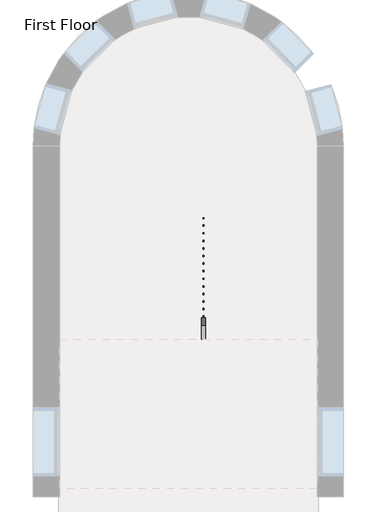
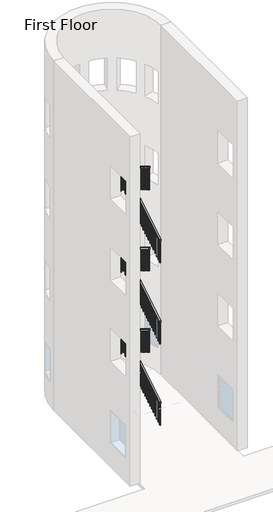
# One storey, part 7 of 8: 1 railing.
"""IFC4 building model written with IfcOpenShell, lengths in millimetres."""

import ifcopenshell
import ifcopenshell.guid

model = None  # the IFC model being written
_history = None  # IfcOwnerHistory: only IFC2X3 demands one
_inside = {}  # id of a spatial element -> (the spatial element, [elements in it])
_under = {}  # id of a project, library or spatial element -> (it, [spatial elements below it])
_declared = {}  # id of a project -> (the project, [libraries it declares])
_typed = {}  # id of a type object -> (the type object, [elements of that type])
_made_of = {}  # id of a material, layer set ... -> (it, [elements and type objects made of it])


def new_model(schema):
    """Start an empty IFC model of exactly this schema.

    Asked for "IFC4X3", IfcOpenShell would pick the latest addendum, in which some entities
    have other attributes; the version numbers below select the first issue.
    IFC2X3 requires an IfcOwnerHistory on every rooted entity: one is made here for all.
    """
    global model, _history
    if schema == "IFC4X3":
        model = ifcopenshell.file(schema_version=(4, 3, 0, 0))
    else:
        model = ifcopenshell.file(schema=schema)
    _inside.clear()
    _under.clear()
    _declared.clear()
    _typed.clear()
    _made_of.clear()
    _history = None
    if model.schema == "IFC2X3":
        org = make("IfcOrganization", Name="unknown")
        user = make(
            "IfcPersonAndOrganization",
            ThePerson=make("IfcPerson", FamilyName="unknown"),
            TheOrganization=org,
        )
        app = make(
            "IfcApplication",
            ApplicationDeveloper=org,
            Version="unknown",
            ApplicationFullName="unknown",
            ApplicationIdentifier="unknown",
        )
        _history = make(
            "IfcOwnerHistory",
            OwningUser=user,
            OwningApplication=app,
            ChangeAction="ADDED",
            CreationDate=0,
        )
    return model


def make(cls, **values):
    """One entity of the class cls with the attributes given. An attribute that is None is left unset."""
    return model.create_entity(
        cls, **{name: value for name, value in values.items() if value is not None}
    )


def rooted(cls, **values):
    """An entity with a GlobalId (a new one), such as an element, a storey or a relation."""
    return make(cls, GlobalId=ifcopenshell.guid.new(), OwnerHistory=_history, **values)


def si_unit(unit_type, name, prefix=None):
    """IfcSIUnit, for example si_unit("LENGTHUNIT", "METRE", prefix="MILLI")."""
    return make("IfcSIUnit", UnitType=unit_type, Prefix=prefix, Name=name)


def assignment(units):
    """IfcUnitAssignment: the units of a project."""
    return None if units is None else make("IfcUnitAssignment", Units=units)


def point(xyz):
    """IfcCartesianPoint."""
    return None if xyz is None else make("IfcCartesianPoint", Coordinates=xyz)


def direction(xyz):
    """IfcDirection."""
    return None if xyz is None else make("IfcDirection", DirectionRatios=xyz)


def frame(location, z_axis=None, x_axis=None):
    """IfcAxis2Placement3D, a coordinate frame: its origin and axes. An axis left out is left unset."""
    return make(
        "IfcAxis2Placement3D",
        Location=point(location),
        Axis=direction(z_axis),
        RefDirection=direction(x_axis),
    )


def origin():
    """The frame at (0, 0, 0) with its axes left unset."""
    return frame((0.0, 0.0, 0.0))


def place(relative_to, where):
    """IfcLocalPlacement: puts the frame where relative to a parent placement (None: the world)."""
    return make(
        "IfcLocalPlacement", PlacementRelTo=relative_to, RelativePlacement=where
    )


def context(
    kind, dimensions, precision=None, world=None, true_north=None, identifier=None
):
    """IfcGeometricRepresentationContext, for example the 3D "Model" context."""
    return make(
        "IfcGeometricRepresentationContext",
        ContextIdentifier=identifier,
        ContextType=kind,
        CoordinateSpaceDimension=dimensions,
        Precision=precision,
        WorldCoordinateSystem=world,
        TrueNorth=true_north,
    )


def project(units=None, contexts=None):
    """IfcProject with its units and contexts."""
    return rooted(
        "IfcProject",
        Name="project",
        RepresentationContexts=contexts,
        UnitsInContext=assignment(units),
    )


def spatial(cls, under=None, at=None, **own):
    """A site, building, storey or space (cls), placed at a placement, below another one or the project."""
    s = rooted(cls, ObjectPlacement=at, **own)
    if under is not None:
        _under.setdefault(under.id(), (under, []))[1].append(s)
    return s


def polyline(points):
    """IfcPolyline through the points."""
    return make("IfcPolyline", Points=[point(p) for p in points])


def outline(outer, holes=None, kind="AREA"):
    """IfcArbitraryClosedProfileDef: a profile drawn as a closed curve; with holes, ...WithVoids."""
    if holes is None:
        return make("IfcArbitraryClosedProfileDef", ProfileType=kind, OuterCurve=outer)
    return make(
        "IfcArbitraryProfileDefWithVoids",
        ProfileType=kind,
        OuterCurve=outer,
        InnerCurves=holes,
    )


def extrude(swept, where, along, depth):
    """IfcExtrudedAreaSolid: the profile swept, set in the frame where, extruded along a direction by depth."""
    return make(
        "IfcExtrudedAreaSolid",
        SweptArea=swept,
        Position=where,
        ExtrudedDirection=direction(along),
        Depth=depth,
    )


def shape(context_of_items, identifier, shape_type, items):
    """IfcShapeRepresentation: the items that make up one representation, for example the "Body"."""
    return make(
        "IfcShapeRepresentation",
        ContextOfItems=context_of_items,
        RepresentationIdentifier=identifier,
        RepresentationType=shape_type,
        Items=items,
    )


def made_of(thing, what):
    """Note that an element or type object is made of a material, layer set ...; save() writes the relation."""
    if what is not None:
        _made_of.setdefault(what.id(), (what, []))[1].append(thing)
    return thing


def element(
    cls,
    number,
    at=None,
    inside=None,
    cuts=None,
    type_object=None,
    material=None,
    context=None,
    identifier="Body",
    shape_type=None,
    held_by="IfcProductDefinitionShape",
    body=None,
    shapes=None,
    **own,
):
    """One element of the class cls, such as IfcWall. Its Tag is "e" and its number.

    at: its placement. inside: the storey or other place that contains it. cuts: it is an
    opening in that element (IfcRelVoidsElement). A single representation is given by context,
    identifier, shape_type and body (its items); several are given by shapes. held_by: the class
    of the entity that holds the representations. save() writes the other relations.
    """
    e = rooted(cls, Tag="e%d" % number, ObjectPlacement=at, **own)
    if body is not None:
        shapes = [shape(context, identifier, shape_type, body)]
    if shapes is not None:
        e.Representation = make(held_by, Representations=shapes)
    if inside is not None:
        _inside.setdefault(inside.id(), (inside, []))[1].append(e)
    if cuts is not None:
        rooted(
            "IfcRelVoidsElement", RelatingBuildingElement=cuts, RelatedOpeningElement=e
        )
    if type_object is not None:
        _typed.setdefault(type_object.id(), (type_object, []))[1].append(e)
    return made_of(e, material)


def aggregate(whole, parts):
    """IfcRelAggregates: a whole, such as a stair, and the parts it consists of."""
    return rooted("IfcRelAggregates", RelatingObject=whole, RelatedObjects=parts)


def save(model, path):
    """Write the relations noted so far, then the file.

    IfcRelAggregates (storeys below a building ...), IfcRelContainedInSpatialStructure (elements
    in a storey), IfcRelDefinesByType, IfcRelAssociatesMaterial and IfcRelDeclares: one each for
    every whole, place, type object, material and project.
    """
    for whole, parts in _under.values():
        aggregate(whole, parts)
    for where, things in _inside.values():
        rooted(
            "IfcRelContainedInSpatialStructure",
            RelatedElements=things,
            RelatingStructure=where,
        )
    for kind, things in _typed.values():
        rooted("IfcRelDefinesByType", RelatedObjects=things, RelatingType=kind)
    for what, things in _made_of.values():
        rooted("IfcRelAssociatesMaterial", RelatedObjects=things, RelatingMaterial=what)
    for by, libraries in _declared.values():
        rooted("IfcRelDeclares", RelatingContext=by, RelatedDefinitions=libraries)
    model.write(path)


model = new_model("IFC4")

# Units and contexts
model_context = context("Model", 3, world=origin())
ifc_project = project(units=[si_unit("LENGTHUNIT", "METRE", prefix="MILLI")], contexts=[model_context])

# Site, building, storey
site = spatial("IfcSite", under=ifc_project)
building = spatial("IfcBuilding", under=site)
storey = spatial("IfcBuildingStorey", under=building, Name="First Floor", Elevation=0.0)

# Railing
placement = place(None, origin())
element("IfcRailing", 1, ObjectType="Handrail - Rectangular", at=placement, inside=storey, context=model_context, shape_type="SweptSolid", body=[
    extrude(outline(polyline([(6636.2316867, 7120.3318731), (6636.2316867, 7179.7333333), (8820.6316867, 8503.6121212), (8820.6316867, 8444.2106609), (6636.2316867, 7120.3318731)])), frame((-14884.3714563, 0.0, 0.0), z_axis=(1.0, 0.0, 0.0), x_axis=(0.0, 1.0, 0.0)), (0.0, 0.0, 1.0), 50.8),
    extrude(outline(polyline([(-14833.5714563, 8871.4316867), (-14833.5714563, 8820.6316867), (-15225.6839563, 8820.6316867), (-15225.6839563, 8871.4316867), (-14833.5714563, 8871.4316867)])), frame((0.0, 0.0, 8483.6), z_axis=(0.0, 0.0, 1.0), x_axis=(1.0, 0.0, 0.0)), (0.0, 0.0, 1.0), 50.8),
    extrude(outline(polyline([(8871.4316867, 8703.7333333), (8871.4316867, 8644.3318731), (6636.2316867, 9998.9985397), (6636.2316867, 10058.4), (8871.4316867, 8703.7333333)])), frame((-15276.4839563, 0.0, 0.0), z_axis=(1.0, 0.0, 0.0), x_axis=(0.0, 1.0, 0.0)), (0.0, 0.0, 1.0), 50.8),
    extrude(outline(polyline([(6721.9566867, 9947.0439943), (6721.9566867, 9134.8266332), (6702.9066867, 9146.3720877), (6702.9066867, 9958.5894488), (6721.9566867, 9947.0439943)])), frame((-15260.6089563, 0.0, 0.0), z_axis=(1.0, 0.0, 0.0), x_axis=(0.0, 1.0, 0.0)), (0.0, 0.0, 1.0), 19.05),
    extrude(outline(polyline([(6823.5566867, 9885.4682367), (6823.5566867, 9073.2508756), (6804.5066867, 9084.7963301), (6804.5066867, 9897.0136912), (6823.5566867, 9885.4682367)])), frame((-15260.6089563, 0.0, 0.0), z_axis=(1.0, 0.0, 0.0), x_axis=(0.0, 1.0, 0.0)), (0.0, 0.0, 1.0), 19.05),
    extrude(outline(polyline([(6925.1566867, 9823.8924791), (6925.1566867, 9011.675118), (6906.1066867, 9023.2205726), (6906.1066867, 9835.4379337), (6925.1566867, 9823.8924791)])), frame((-15260.6089563, 0.0, 0.0), z_axis=(1.0, 0.0, 0.0), x_axis=(0.0, 1.0, 0.0)), (0.0, 0.0, 1.0), 19.05),
    extrude(outline(polyline([(7026.7566867, 9762.3167215), (7026.7566867, 8950.0993604), (7007.7066867, 8961.644815), (7007.7066867, 9773.8621761), (7026.7566867, 9762.3167215)])), frame((-15260.6089563, 0.0, 0.0), z_axis=(1.0, 0.0, 0.0), x_axis=(0.0, 1.0, 0.0)), (0.0, 0.0, 1.0), 19.05),
    extrude(outline(polyline([(7128.3566867, 9700.740964), (7128.3566867, 8888.5236029), (7109.3066867, 8900.0690574), (7109.3066867, 9712.2864185), (7128.3566867, 9700.740964)])), frame((-15260.6089563, 0.0, 0.0), z_axis=(1.0, 0.0, 0.0), x_axis=(0.0, 1.0, 0.0)), (0.0, 0.0, 1.0), 19.05),
    extrude(outline(polyline([(7229.9566867, 9639.1652064), (7229.9566867, 8826.9478453), (7210.9066867, 8838.4932998), (7210.9066867, 9650.7106609), (7229.9566867, 9639.1652064)])), frame((-15260.6089563, 0.0, 0.0), z_axis=(1.0, 0.0, 0.0), x_axis=(0.0, 1.0, 0.0)), (0.0, 0.0, 1.0), 19.05),
    extrude(outline(polyline([(7331.5566867, 9577.5894488), (7331.5566867, 8765.3720877), (7312.5066867, 8776.9175422), (7312.5066867, 9589.1349034), (7331.5566867, 9577.5894488)])), frame((-15260.6089563, 0.0, 0.0), z_axis=(1.0, 0.0, 0.0), x_axis=(0.0, 1.0, 0.0)), (0.0, 0.0, 1.0), 19.05),
    extrude(outline(polyline([(7433.1566867, 9516.0136912), (7433.1566867, 8703.7963301), (7414.1066867, 8715.3417847), (7414.1066867, 9527.5591458), (7433.1566867, 9516.0136912)])), frame((-15260.6089563, 0.0, 0.0), z_axis=(1.0, 0.0, 0.0), x_axis=(0.0, 1.0, 0.0)), (0.0, 0.0, 1.0), 19.05),
    extrude(outline(polyline([(7534.7566867, 9454.4379337), (7534.7566867, 8642.2205726), (7515.7066867, 8653.7660271), (7515.7066867, 9465.9833882), (7534.7566867, 9454.4379337)])), frame((-15260.6089563, 0.0, 0.0), z_axis=(1.0, 0.0, 0.0), x_axis=(0.0, 1.0, 0.0)), (0.0, 0.0, 1.0), 19.05),
    extrude(outline(polyline([(7636.3566867, 9392.8621761), (7636.3566867, 8580.644815), (7617.3066867, 8592.1902695), (7617.3066867, 9404.4076306), (7636.3566867, 9392.8621761)])), frame((-15260.6089563, 0.0, 0.0), z_axis=(1.0, 0.0, 0.0), x_axis=(0.0, 1.0, 0.0)), (0.0, 0.0, 1.0), 19.05),
    extrude(outline(polyline([(7737.9566867, 9331.2864185), (7737.9566867, 8519.0690574), (7718.9066867, 8530.6145119), (7718.9066867, 9342.8318731), (7737.9566867, 9331.2864185)])), frame((-15260.6089563, 0.0, 0.0), z_axis=(1.0, 0.0, 0.0), x_axis=(0.0, 1.0, 0.0)), (0.0, 0.0, 1.0), 19.05),
    extrude(outline(polyline([(7839.5566867, 9269.7106609), (7839.5566867, 8457.4932998), (7820.5066867, 8469.0387544), (7820.5066867, 9281.2561155), (7839.5566867, 9269.7106609)])), frame((-15260.6089563, 0.0, 0.0), z_axis=(1.0, 0.0, 0.0), x_axis=(0.0, 1.0, 0.0)), (0.0, 0.0, 1.0), 19.05),
    extrude(outline(polyline([(7941.1566867, 9208.1349034), (7941.1566867, 8395.9175422), (7922.1066867, 8407.4629968), (7922.1066867, 9219.6803579), (7941.1566867, 9208.1349034)])), frame((-15260.6089563, 0.0, 0.0), z_axis=(1.0, 0.0, 0.0), x_axis=(0.0, 1.0, 0.0)), (0.0, 0.0, 1.0), 19.05),
    extrude(outline(polyline([(8042.7566867, 9146.5591458), (8042.7566867, 8334.3417847), (8023.7066867, 8345.8872392), (8023.7066867, 9158.1046003), (8042.7566867, 9146.5591458)])), frame((-15260.6089563, 0.0, 0.0), z_axis=(1.0, 0.0, 0.0), x_axis=(0.0, 1.0, 0.0)), (0.0, 0.0, 1.0), 19.05),
    extrude(outline(polyline([(8144.3566867, 9084.9833882), (8144.3566867, 8272.7660271), (8125.3066867, 8284.3114816), (8125.3066867, 9096.5288428), (8144.3566867, 9084.9833882)])), frame((-15260.6089563, 0.0, 0.0), z_axis=(1.0, 0.0, 0.0), x_axis=(0.0, 1.0, 0.0)), (0.0, 0.0, 1.0), 19.05),
    extrude(outline(polyline([(8245.9566867, 9023.4076306), (8245.9566867, 8211.1902695), (8226.9066867, 8222.7357241), (8226.9066867, 9034.9530852), (8245.9566867, 9023.4076306)])), frame((-15260.6089563, 0.0, 0.0), z_axis=(1.0, 0.0, 0.0), x_axis=(0.0, 1.0, 0.0)), (0.0, 0.0, 1.0), 19.05),
    extrude(outline(polyline([(8347.5566867, 8961.8318731), (8347.5566867, 8149.6145119), (8328.5066867, 8161.1599665), (8328.5066867, 8973.3773276), (8347.5566867, 8961.8318731)])), frame((-15260.6089563, 0.0, 0.0), z_axis=(1.0, 0.0, 0.0), x_axis=(0.0, 1.0, 0.0)), (0.0, 0.0, 1.0), 19.05),
    extrude(outline(polyline([(8449.1566867, 8900.2561155), (8449.1566867, 8088.0387544), (8430.1066867, 8099.5842089), (8430.1066867, 8911.80157), (8449.1566867, 8900.2561155)])), frame((-15260.6089563, 0.0, 0.0), z_axis=(1.0, 0.0, 0.0), x_axis=(0.0, 1.0, 0.0)), (0.0, 0.0, 1.0), 19.05),
    extrude(outline(polyline([(8550.7566867, 8838.6803579), (8550.7566867, 8026.4629968), (8531.7066867, 8038.0084513), (8531.7066867, 8850.2258125), (8550.7566867, 8838.6803579)])), frame((-15260.6089563, 0.0, 0.0), z_axis=(1.0, 0.0, 0.0), x_axis=(0.0, 1.0, 0.0)), (0.0, 0.0, 1.0), 19.05),
    extrude(outline(polyline([(8652.3566867, 8777.1046003), (8652.3566867, 7964.8872392), (8633.3066867, 7976.4326938), (8633.3066867, 8788.6500549), (8652.3566867, 8777.1046003)])), frame((-15260.6089563, 0.0, 0.0), z_axis=(1.0, 0.0, 0.0), x_axis=(0.0, 1.0, 0.0)), (0.0, 0.0, 1.0), 19.05),
    extrude(outline(polyline([(8753.9566867, 8715.5288428), (8753.9566867, 7903.3114816), (8734.9066867, 7914.8569362), (8734.9066867, 8727.0742973), (8753.9566867, 8715.5288428)])), frame((-15260.6089563, 0.0, 0.0), z_axis=(1.0, 0.0, 0.0), x_axis=(0.0, 1.0, 0.0)), (0.0, 0.0, 1.0), 19.05),
    extrude(outline(polyline([(-15154.2464563, 8836.5066867), (-15173.2964563, 8836.5066867), (-15173.2964563, 8855.5566867), (-15154.2464563, 8855.5566867), (-15154.2464563, 8836.5066867)])), frame((0.0, 0.0, 7696.2), z_axis=(0.0, 0.0, 1.0), x_axis=(1.0, 0.0, 0.0)), (0.0, 0.0, 1.0), 787.4),
    extrude(outline(polyline([(-15052.6464563, 8836.5066867), (-15071.6964563, 8836.5066867), (-15071.6964563, 8855.5566867), (-15052.6464563, 8855.5566867), (-15052.6464563, 8836.5066867)])), frame((0.0, 0.0, 7696.2), z_axis=(0.0, 0.0, 1.0), x_axis=(1.0, 0.0, 0.0)), (0.0, 0.0, 1.0), 787.4),
    extrude(outline(polyline([(-14951.0464563, 8836.5066867), (-14970.0964563, 8836.5066867), (-14970.0964563, 8855.5566867), (-14951.0464563, 8855.5566867), (-14951.0464563, 8836.5066867)])), frame((0.0, 0.0, 7696.2), z_axis=(0.0, 0.0, 1.0), x_axis=(1.0, 0.0, 0.0)), (0.0, 0.0, 1.0), 787.4),
    extrude(outline(polyline([(8779.3566867, 8419.1955094), (8779.3566867, 7606.9781483), (8760.3066867, 7595.4326938), (8760.3066867, 8407.6500549), (8779.3566867, 8419.1955094)])), frame((-14868.4964563, 0.0, 0.0), z_axis=(1.0, 0.0, 0.0), x_axis=(0.0, 1.0, 0.0)), (0.0, 0.0, 1.0), 19.05),
    extrude(outline(polyline([(8677.7566867, 8357.6197519), (8677.7566867, 7545.4023907), (8658.7066867, 7533.8569362), (8658.7066867, 8346.0742973), (8677.7566867, 8357.6197519)])), frame((-14868.4964563, 0.0, 0.0), z_axis=(1.0, 0.0, 0.0), x_axis=(0.0, 1.0, 0.0)), (0.0, 0.0, 1.0), 19.05),
    extrude(outline(polyline([(8576.1566867, 8296.0439943), (8576.1566867, 7483.8266332), (8557.1066867, 7472.2811786), (8557.1066867, 8284.4985397), (8576.1566867, 8296.0439943)])), frame((-14868.4964563, 0.0, 0.0), z_axis=(1.0, 0.0, 0.0), x_axis=(0.0, 1.0, 0.0)), (0.0, 0.0, 1.0), 19.05),
    extrude(outline(polyline([(8474.5566867, 8234.4682367), (8474.5566867, 7422.2508756), (8455.5066867, 7410.705421), (8455.5066867, 8222.9227822), (8474.5566867, 8234.4682367)])), frame((-14868.4964563, 0.0, 0.0), z_axis=(1.0, 0.0, 0.0), x_axis=(0.0, 1.0, 0.0)), (0.0, 0.0, 1.0), 19.05),
    extrude(outline(polyline([(8372.9566867, 8172.8924791), (8372.9566867, 7360.675118), (8353.9066867, 7349.1296635), (8353.9066867, 8161.3470246), (8372.9566867, 8172.8924791)])), frame((-14868.4964563, 0.0, 0.0), z_axis=(1.0, 0.0, 0.0), x_axis=(0.0, 1.0, 0.0)), (0.0, 0.0, 1.0), 19.05),
    extrude(outline(polyline([(8271.3566867, 8111.3167215), (8271.3566867, 7299.0993604), (8252.3066867, 7287.5539059), (8252.3066867, 8099.771267), (8271.3566867, 8111.3167215)])), frame((-14868.4964563, 0.0, 0.0), z_axis=(1.0, 0.0, 0.0), x_axis=(0.0, 1.0, 0.0)), (0.0, 0.0, 1.0), 19.05),
    extrude(outline(polyline([(8169.7566867, 8049.740964), (8169.7566867, 7237.5236029), (8150.7066867, 7225.9781483), (8150.7066867, 8038.1955094), (8169.7566867, 8049.740964)])), frame((-14868.4964563, 0.0, 0.0), z_axis=(1.0, 0.0, 0.0), x_axis=(0.0, 1.0, 0.0)), (0.0, 0.0, 1.0), 19.05),
    extrude(outline(polyline([(8068.1566867, 7988.1652064), (8068.1566867, 7175.9478453), (8049.1066867, 7164.4023907), (8049.1066867, 7976.6197519), (8068.1566867, 7988.1652064)])), frame((-14868.4964563, 0.0, 0.0), z_axis=(1.0, 0.0, 0.0), x_axis=(0.0, 1.0, 0.0)), (0.0, 0.0, 1.0), 19.05),
    extrude(outline(polyline([(7966.5566867, 7926.5894488), (7966.5566867, 7114.3720877), (7947.5066867, 7102.8266332), (7947.5066867, 7915.0439943), (7966.5566867, 7926.5894488)])), frame((-14868.4964563, 0.0, 0.0), z_axis=(1.0, 0.0, 0.0), x_axis=(0.0, 1.0, 0.0)), (0.0, 0.0, 1.0), 19.05),
    extrude(outline(polyline([(7864.9566867, 7865.0136912), (7864.9566867, 7052.7963301), (7845.9066867, 7041.2508756), (7845.9066867, 7853.4682367), (7864.9566867, 7865.0136912)])), frame((-14868.4964563, 0.0, 0.0), z_axis=(1.0, 0.0, 0.0), x_axis=(0.0, 1.0, 0.0)), (0.0, 0.0, 1.0), 19.05),
    extrude(outline(polyline([(7763.3566867, 7803.4379337), (7763.3566867, 6991.2205726), (7744.3066867, 6979.675118), (7744.3066867, 7791.8924791), (7763.3566867, 7803.4379337)])), frame((-14868.4964563, 0.0, 0.0), z_axis=(1.0, 0.0, 0.0), x_axis=(0.0, 1.0, 0.0)), (0.0, 0.0, 1.0), 19.05),
    extrude(outline(polyline([(7661.7566867, 7741.8621761), (7661.7566867, 6929.644815), (7642.7066867, 6918.0993604), (7642.7066867, 7730.3167215), (7661.7566867, 7741.8621761)])), frame((-14868.4964563, 0.0, 0.0), z_axis=(1.0, 0.0, 0.0), x_axis=(0.0, 1.0, 0.0)), (0.0, 0.0, 1.0), 19.05),
    extrude(outline(polyline([(7560.1566867, 7680.2864185), (7560.1566867, 6868.0690574), (7541.1066867, 6856.5236029), (7541.1066867, 7668.740964), (7560.1566867, 7680.2864185)])), frame((-14868.4964563, 0.0, 0.0), z_axis=(1.0, 0.0, 0.0), x_axis=(0.0, 1.0, 0.0)), (0.0, 0.0, 1.0), 19.05),
    extrude(outline(polyline([(7458.5566867, 7618.7106609), (7458.5566867, 6806.4932998), (7439.5066867, 6794.9478453), (7439.5066867, 7607.1652064), (7458.5566867, 7618.7106609)])), frame((-14868.4964563, 0.0, 0.0), z_axis=(1.0, 0.0, 0.0), x_axis=(0.0, 1.0, 0.0)), (0.0, 0.0, 1.0), 19.05),
    extrude(outline(polyline([(7356.9566867, 7557.1349034), (7356.9566867, 6744.9175422), (7337.9066867, 6733.3720877), (7337.9066867, 7545.5894488), (7356.9566867, 7557.1349034)])), frame((-14868.4964563, 0.0, 0.0), z_axis=(1.0, 0.0, 0.0), x_axis=(0.0, 1.0, 0.0)), (0.0, 0.0, 1.0), 19.05),
    extrude(outline(polyline([(7255.3566867, 7495.5591458), (7255.3566867, 6683.3417847), (7236.3066867, 6671.7963301), (7236.3066867, 7484.0136912), (7255.3566867, 7495.5591458)])), frame((-14868.4964563, 0.0, 0.0), z_axis=(1.0, 0.0, 0.0), x_axis=(0.0, 1.0, 0.0)), (0.0, 0.0, 1.0), 19.05),
    extrude(outline(polyline([(7153.7566867, 7433.9833882), (7153.7566867, 6621.7660271), (7134.7066867, 6610.2205726), (7134.7066867, 7422.4379337), (7153.7566867, 7433.9833882)])), frame((-14868.4964563, 0.0, 0.0), z_axis=(1.0, 0.0, 0.0), x_axis=(0.0, 1.0, 0.0)), (0.0, 0.0, 1.0), 19.05),
    extrude(outline(polyline([(7052.1566867, 7372.4076306), (7052.1566867, 6560.1902695), (7033.1066867, 6548.644815), (7033.1066867, 7360.8621761), (7052.1566867, 7372.4076306)])), frame((-14868.4964563, 0.0, 0.0), z_axis=(1.0, 0.0, 0.0), x_axis=(0.0, 1.0, 0.0)), (0.0, 0.0, 1.0), 19.05),
    extrude(outline(polyline([(6950.5566867, 7310.8318731), (6950.5566867, 6498.6145119), (6931.5066867, 6487.0690574), (6931.5066867, 7299.2864185), (6950.5566867, 7310.8318731)])), frame((-14868.4964563, 0.0, 0.0), z_axis=(1.0, 0.0, 0.0), x_axis=(0.0, 1.0, 0.0)), (0.0, 0.0, 1.0), 19.05),
    extrude(outline(polyline([(6848.9566867, 7249.2561155), (6848.9566867, 6437.0387544), (6829.9066867, 6425.4932998), (6829.9066867, 7237.7106609), (6848.9566867, 7249.2561155)])), frame((-14868.4964563, 0.0, 0.0), z_axis=(1.0, 0.0, 0.0), x_axis=(0.0, 1.0, 0.0)), (0.0, 0.0, 1.0), 19.05),
    extrude(outline(polyline([(6747.3566867, 7187.6803579), (6747.3566867, 6375.4629968), (6728.3066867, 6363.9175422), (6728.3066867, 7176.1349034), (6747.3566867, 7187.6803579)])), frame((-14868.4964563, 0.0, 0.0), z_axis=(1.0, 0.0, 0.0), x_axis=(0.0, 1.0, 0.0)), (0.0, 0.0, 1.0), 19.05),
    extrude(outline(polyline([(8855.5566867, 8653.9530852), (8855.5566867, 7841.7357241), (8836.5066867, 7853.2811786), (8836.5066867, 8665.4985397), (8855.5566867, 8653.9530852)])), frame((-15260.6089563, 0.0, 0.0), z_axis=(1.0, 0.0, 0.0), x_axis=(0.0, 1.0, 0.0)), (0.0, 0.0, 1.0), 19.05),
    extrude(outline(polyline([(-14849.4464563, 8836.5066867), (-14868.4964563, 8836.5066867), (-14868.4964563, 8855.5566867), (-14849.4464563, 8855.5566867), (-14849.4464563, 8836.5066867)])), frame((0.0, 0.0, 7696.2), z_axis=(0.0, 0.0, 1.0), x_axis=(1.0, 0.0, 0.0)), (0.0, 0.0, 1.0), 787.4),
    extrude(outline(polyline([(6655.2816867, 9987.4530852), (6655.2816867, 9175.2357241), (6636.2316867, 9186.7811786), (6636.2316867, 9998.9985397), (6655.2816867, 9987.4530852)])), frame((-15260.6089563, 0.0, 0.0), z_axis=(1.0, 0.0, 0.0), x_axis=(0.0, 1.0, 0.0)), (0.0, 0.0, 1.0), 19.05),
    extrude(outline(polyline([(6655.2816867, 7131.8773276), (6655.2816867, 6319.6599665), (6636.2316867, 6308.1145119), (6636.2316867, 7120.3318731), (6655.2816867, 7131.8773276)])), frame((-14868.4964563, 0.0, 0.0), z_axis=(1.0, 0.0, 0.0), x_axis=(0.0, 1.0, 0.0)), (0.0, 0.0, 1.0), 19.05),
    extrude(outline(polyline([(6636.2316867, 4072.3318731), (6636.2316867, 4131.7333333), (8820.6316867, 5455.6121212), (8820.6316867, 5396.210661), (6636.2316867, 4072.3318731)])), frame((-14884.3714563, 0.0, 0.0), z_axis=(1.0, 0.0, 0.0), x_axis=(0.0, 1.0, 0.0)), (0.0, 0.0, 1.0), 50.8),
    extrude(outline(polyline([(-14833.5714563, 8871.4316867), (-14833.5714563, 8820.6316867), (-15225.6839563, 8820.6316867), (-15225.6839563, 8871.4316867), (-14833.5714563, 8871.4316867)])), frame((0.0, 0.0, 5435.6), z_axis=(0.0, 0.0, 1.0), x_axis=(1.0, 0.0, 0.0)), (0.0, 0.0, 1.0), 50.8),
    extrude(outline(polyline([(8871.4316867, 5655.7333333), (8871.4316867, 5596.3318731), (6636.2316867, 6950.9985397), (6636.2316867, 7010.4), (8871.4316867, 5655.7333333)])), frame((-15276.4839563, 0.0, 0.0), z_axis=(1.0, 0.0, 0.0), x_axis=(0.0, 1.0, 0.0)), (0.0, 0.0, 1.0), 50.8),
    extrude(outline(polyline([(6721.9566867, 6899.0439943), (6721.9566867, 6086.8266332), (6702.9066867, 6098.3720877), (6702.9066867, 6910.5894488), (6721.9566867, 6899.0439943)])), frame((-15260.6089563, 0.0, 0.0), z_axis=(1.0, 0.0, 0.0), x_axis=(0.0, 1.0, 0.0)), (0.0, 0.0, 1.0), 19.05),
    extrude(outline(polyline([(6823.5566867, 6837.4682367), (6823.5566867, 6025.2508756), (6804.5066867, 6036.7963301), (6804.5066867, 6849.0136913), (6823.5566867, 6837.4682367)])), frame((-15260.6089563, 0.0, 0.0), z_axis=(1.0, 0.0, 0.0), x_axis=(0.0, 1.0, 0.0)), (0.0, 0.0, 1.0), 19.05),
    extrude(outline(polyline([(6925.1566867, 6775.8924791), (6925.1566867, 5963.675118), (6906.1066867, 5975.2205726), (6906.1066867, 6787.4379337), (6925.1566867, 6775.8924791)])), frame((-15260.6089563, 0.0, 0.0), z_axis=(1.0, 0.0, 0.0), x_axis=(0.0, 1.0, 0.0)), (0.0, 0.0, 1.0), 19.05),
    extrude(outline(polyline([(7026.7566867, 6714.3167216), (7026.7566867, 5902.0993604), (7007.7066867, 5913.644815), (7007.7066867, 6725.8621761), (7026.7566867, 6714.3167216)])), frame((-15260.6089563, 0.0, 0.0), z_axis=(1.0, 0.0, 0.0), x_axis=(0.0, 1.0, 0.0)), (0.0, 0.0, 1.0), 19.05),
    extrude(outline(polyline([(7128.3566867, 6652.740964), (7128.3566867, 5840.5236029), (7109.3066867, 5852.0690574), (7109.3066867, 6664.2864185), (7128.3566867, 6652.740964)])), frame((-15260.6089563, 0.0, 0.0), z_axis=(1.0, 0.0, 0.0), x_axis=(0.0, 1.0, 0.0)), (0.0, 0.0, 1.0), 19.05),
    extrude(outline(polyline([(7229.9566867, 6591.1652064), (7229.9566867, 5778.9478453), (7210.9066867, 5790.4932998), (7210.9066867, 6602.7106609), (7229.9566867, 6591.1652064)])), frame((-15260.6089563, 0.0, 0.0), z_axis=(1.0, 0.0, 0.0), x_axis=(0.0, 1.0, 0.0)), (0.0, 0.0, 1.0), 19.05),
    extrude(outline(polyline([(7331.5566867, 6529.5894488), (7331.5566867, 5717.3720877), (7312.5066867, 5728.9175423), (7312.5066867, 6541.1349034), (7331.5566867, 6529.5894488)])), frame((-15260.6089563, 0.0, 0.0), z_axis=(1.0, 0.0, 0.0), x_axis=(0.0, 1.0, 0.0)), (0.0, 0.0, 1.0), 19.05),
    extrude(outline(polyline([(7433.1566867, 6468.0136913), (7433.1566867, 5655.7963301), (7414.1066867, 5667.3417847), (7414.1066867, 6479.5591458), (7433.1566867, 6468.0136913)])), frame((-15260.6089563, 0.0, 0.0), z_axis=(1.0, 0.0, 0.0), x_axis=(0.0, 1.0, 0.0)), (0.0, 0.0, 1.0), 19.05),
    extrude(outline(polyline([(7534.7566867, 6406.4379337), (7534.7566867, 5594.2205726), (7515.7066867, 5605.7660271), (7515.7066867, 6417.9833882), (7534.7566867, 6406.4379337)])), frame((-15260.6089563, 0.0, 0.0), z_axis=(1.0, 0.0, 0.0), x_axis=(0.0, 1.0, 0.0)), (0.0, 0.0, 1.0), 19.05),
    extrude(outline(polyline([(7636.3566867, 6344.8621761), (7636.3566867, 5532.644815), (7617.3066867, 5544.1902695), (7617.3066867, 6356.4076306), (7636.3566867, 6344.8621761)])), frame((-15260.6089563, 0.0, 0.0), z_axis=(1.0, 0.0, 0.0), x_axis=(0.0, 1.0, 0.0)), (0.0, 0.0, 1.0), 19.05),
    extrude(outline(polyline([(7737.9566867, 6283.2864185), (7737.9566867, 5471.0690574), (7718.9066867, 5482.614512), (7718.9066867, 6294.8318731), (7737.9566867, 6283.2864185)])), frame((-15260.6089563, 0.0, 0.0), z_axis=(1.0, 0.0, 0.0), x_axis=(0.0, 1.0, 0.0)), (0.0, 0.0, 1.0), 19.05),
    extrude(outline(polyline([(7839.5566867, 6221.7106609), (7839.5566867, 5409.4932998), (7820.5066867, 5421.0387544), (7820.5066867, 6233.2561155), (7839.5566867, 6221.7106609)])), frame((-15260.6089563, 0.0, 0.0), z_axis=(1.0, 0.0, 0.0), x_axis=(0.0, 1.0, 0.0)), (0.0, 0.0, 1.0), 19.05),
    extrude(outline(polyline([(7941.1566867, 6160.1349034), (7941.1566867, 5347.9175423), (7922.1066867, 5359.4629968), (7922.1066867, 6171.6803579), (7941.1566867, 6160.1349034)])), frame((-15260.6089563, 0.0, 0.0), z_axis=(1.0, 0.0, 0.0), x_axis=(0.0, 1.0, 0.0)), (0.0, 0.0, 1.0), 19.05),
    extrude(outline(polyline([(8042.7566867, 6098.5591458), (8042.7566867, 5286.3417847), (8023.7066867, 5297.8872392), (8023.7066867, 6110.1046003), (8042.7566867, 6098.5591458)])), frame((-15260.6089563, 0.0, 0.0), z_axis=(1.0, 0.0, 0.0), x_axis=(0.0, 1.0, 0.0)), (0.0, 0.0, 1.0), 19.05),
    extrude(outline(polyline([(8144.3566867, 6036.9833882), (8144.3566867, 5224.7660271), (8125.3066867, 5236.3114817), (8125.3066867, 6048.5288428), (8144.3566867, 6036.9833882)])), frame((-15260.6089563, 0.0, 0.0), z_axis=(1.0, 0.0, 0.0), x_axis=(0.0, 1.0, 0.0)), (0.0, 0.0, 1.0), 19.05),
    extrude(outline(polyline([(8245.9566867, 5975.4076306), (8245.9566867, 5163.1902695), (8226.9066867, 5174.7357241), (8226.9066867, 5986.9530852), (8245.9566867, 5975.4076306)])), frame((-15260.6089563, 0.0, 0.0), z_axis=(1.0, 0.0, 0.0), x_axis=(0.0, 1.0, 0.0)), (0.0, 0.0, 1.0), 19.05),
    extrude(outline(polyline([(8347.5566867, 5913.8318731), (8347.5566867, 5101.614512), (8328.5066867, 5113.1599665), (8328.5066867, 5925.3773276), (8347.5566867, 5913.8318731)])), frame((-15260.6089563, 0.0, 0.0), z_axis=(1.0, 0.0, 0.0), x_axis=(0.0, 1.0, 0.0)), (0.0, 0.0, 1.0), 19.05),
    extrude(outline(polyline([(8449.1566867, 5852.2561155), (8449.1566867, 5040.0387544), (8430.1066867, 5051.5842089), (8430.1066867, 5863.80157), (8449.1566867, 5852.2561155)])), frame((-15260.6089563, 0.0, 0.0), z_axis=(1.0, 0.0, 0.0), x_axis=(0.0, 1.0, 0.0)), (0.0, 0.0, 1.0), 19.05),
    extrude(outline(polyline([(8550.7566867, 5790.6803579), (8550.7566867, 4978.4629968), (8531.7066867, 4990.0084513), (8531.7066867, 5802.2258125), (8550.7566867, 5790.6803579)])), frame((-15260.6089563, 0.0, 0.0), z_axis=(1.0, 0.0, 0.0), x_axis=(0.0, 1.0, 0.0)), (0.0, 0.0, 1.0), 19.05),
    extrude(outline(polyline([(8652.3566867, 5729.1046003), (8652.3566867, 4916.8872392), (8633.3066867, 4928.4326938), (8633.3066867, 5740.6500549), (8652.3566867, 5729.1046003)])), frame((-15260.6089563, 0.0, 0.0), z_axis=(1.0, 0.0, 0.0), x_axis=(0.0, 1.0, 0.0)), (0.0, 0.0, 1.0), 19.05),
    extrude(outline(polyline([(8753.9566867, 5667.5288428), (8753.9566867, 4855.3114817), (8734.9066867, 4866.8569362), (8734.9066867, 5679.0742973), (8753.9566867, 5667.5288428)])), frame((-15260.6089563, 0.0, 0.0), z_axis=(1.0, 0.0, 0.0), x_axis=(0.0, 1.0, 0.0)), (0.0, 0.0, 1.0), 19.05),
    extrude(outline(polyline([(-15154.2464563, 8836.5066867), (-15173.2964563, 8836.5066867), (-15173.2964563, 8855.5566867), (-15154.2464563, 8855.5566867), (-15154.2464563, 8836.5066867)])), frame((0.0, 0.0, 4648.2), z_axis=(0.0, 0.0, 1.0), x_axis=(1.0, 0.0, 0.0)), (0.0, 0.0, 1.0), 787.4),
    extrude(outline(polyline([(-15052.6464563, 8836.5066867), (-15071.6964563, 8836.5066867), (-15071.6964563, 8855.5566867), (-15052.6464563, 8855.5566867), (-15052.6464563, 8836.5066867)])), frame((0.0, 0.0, 4648.2), z_axis=(0.0, 0.0, 1.0), x_axis=(1.0, 0.0, 0.0)), (0.0, 0.0, 1.0), 787.4),
    extrude(outline(polyline([(-14951.0464563, 8836.5066867), (-14970.0964563, 8836.5066867), (-14970.0964563, 8855.5566867), (-14951.0464563, 8855.5566867), (-14951.0464563, 8836.5066867)])), frame((0.0, 0.0, 4648.2), z_axis=(0.0, 0.0, 1.0), x_axis=(1.0, 0.0, 0.0)), (0.0, 0.0, 1.0), 787.4),
    extrude(outline(polyline([(8779.3566867, 5371.1955094), (8779.3566867, 4558.9781483), (8760.3066867, 4547.4326938), (8760.3066867, 5359.6500549), (8779.3566867, 5371.1955094)])), frame((-14868.4964563, 0.0, 0.0), z_axis=(1.0, 0.0, 0.0), x_axis=(0.0, 1.0, 0.0)), (0.0, 0.0, 1.0), 19.05),
    extrude(outline(polyline([(8677.7566867, 5309.6197519), (8677.7566867, 4497.4023907), (8658.7066867, 4485.8569362), (8658.7066867, 5298.0742973), (8677.7566867, 5309.6197519)])), frame((-14868.4964563, 0.0, 0.0), z_axis=(1.0, 0.0, 0.0), x_axis=(0.0, 1.0, 0.0)), (0.0, 0.0, 1.0), 19.05),
    extrude(outline(polyline([(8576.1566867, 5248.0439943), (8576.1566867, 4435.8266332), (8557.1066867, 4424.2811786), (8557.1066867, 5236.4985397), (8576.1566867, 5248.0439943)])), frame((-14868.4964563, 0.0, 0.0), z_axis=(1.0, 0.0, 0.0), x_axis=(0.0, 1.0, 0.0)), (0.0, 0.0, 1.0), 19.05),
    extrude(outline(polyline([(8474.5566867, 5186.4682367), (8474.5566867, 4374.2508756), (8455.5066867, 4362.705421), (8455.5066867, 5174.9227822), (8474.5566867, 5186.4682367)])), frame((-14868.4964563, 0.0, 0.0), z_axis=(1.0, 0.0, 0.0), x_axis=(0.0, 1.0, 0.0)), (0.0, 0.0, 1.0), 19.05),
    extrude(outline(polyline([(8372.9566867, 5124.8924791), (8372.9566867, 4312.675118), (8353.9066867, 4301.1296635), (8353.9066867, 5113.3470246), (8372.9566867, 5124.8924791)])), frame((-14868.4964563, 0.0, 0.0), z_axis=(1.0, 0.0, 0.0), x_axis=(0.0, 1.0, 0.0)), (0.0, 0.0, 1.0), 19.05),
    extrude(outline(polyline([(8271.3566867, 5063.3167216), (8271.3566867, 4251.0993604), (8252.3066867, 4239.5539059), (8252.3066867, 5051.771267), (8271.3566867, 5063.3167216)])), frame((-14868.4964563, 0.0, 0.0), z_axis=(1.0, 0.0, 0.0), x_axis=(0.0, 1.0, 0.0)), (0.0, 0.0, 1.0), 19.05),
    extrude(outline(polyline([(8169.7566867, 5001.740964), (8169.7566867, 4189.5236029), (8150.7066867, 4177.9781483), (8150.7066867, 4990.1955094), (8169.7566867, 5001.740964)])), frame((-14868.4964563, 0.0, 0.0), z_axis=(1.0, 0.0, 0.0), x_axis=(0.0, 1.0, 0.0)), (0.0, 0.0, 1.0), 19.05),
    extrude(outline(polyline([(8068.1566867, 4940.1652064), (8068.1566867, 4127.9478453), (8049.1066867, 4116.4023907), (8049.1066867, 4928.6197519), (8068.1566867, 4940.1652064)])), frame((-14868.4964563, 0.0, 0.0), z_axis=(1.0, 0.0, 0.0), x_axis=(0.0, 1.0, 0.0)), (0.0, 0.0, 1.0), 19.05),
    extrude(outline(polyline([(7966.5566867, 4878.5894488), (7966.5566867, 4066.3720877), (7947.5066867, 4054.8266332), (7947.5066867, 4867.0439943), (7966.5566867, 4878.5894488)])), frame((-14868.4964563, 0.0, 0.0), z_axis=(1.0, 0.0, 0.0), x_axis=(0.0, 1.0, 0.0)), (0.0, 0.0, 1.0), 19.05),
    extrude(outline(polyline([(7864.9566867, 4817.0136913), (7864.9566867, 4004.7963301), (7845.9066867, 3993.2508756), (7845.9066867, 4805.4682367), (7864.9566867, 4817.0136913)])), frame((-14868.4964563, 0.0, 0.0), z_axis=(1.0, 0.0, 0.0), x_axis=(0.0, 1.0, 0.0)), (0.0, 0.0, 1.0), 19.05),
    extrude(outline(polyline([(7763.3566867, 4755.4379337), (7763.3566867, 3943.2205726), (7744.3066867, 3931.675118), (7744.3066867, 4743.8924791), (7763.3566867, 4755.4379337)])), frame((-14868.4964563, 0.0, 0.0), z_axis=(1.0, 0.0, 0.0), x_axis=(0.0, 1.0, 0.0)), (0.0, 0.0, 1.0), 19.05),
    extrude(outline(polyline([(7661.7566867, 4693.8621761), (7661.7566867, 3881.644815), (7642.7066867, 3870.0993604), (7642.7066867, 4682.3167216), (7661.7566867, 4693.8621761)])), frame((-14868.4964563, 0.0, 0.0), z_axis=(1.0, 0.0, 0.0), x_axis=(0.0, 1.0, 0.0)), (0.0, 0.0, 1.0), 19.05),
    extrude(outline(polyline([(7560.1566867, 4632.2864185), (7560.1566867, 3820.0690574), (7541.1066867, 3808.5236029), (7541.1066867, 4620.740964), (7560.1566867, 4632.2864185)])), frame((-14868.4964563, 0.0, 0.0), z_axis=(1.0, 0.0, 0.0), x_axis=(0.0, 1.0, 0.0)), (0.0, 0.0, 1.0), 19.05),
    extrude(outline(polyline([(7458.5566867, 4570.710661), (7458.5566867, 3758.4932998), (7439.5066867, 3746.9478453), (7439.5066867, 4559.1652064), (7458.5566867, 4570.710661)])), frame((-14868.4964563, 0.0, 0.0), z_axis=(1.0, 0.0, 0.0), x_axis=(0.0, 1.0, 0.0)), (0.0, 0.0, 1.0), 19.05),
    extrude(outline(polyline([(7356.9566867, 4509.1349034), (7356.9566867, 3696.9175423), (7337.9066867, 3685.3720877), (7337.9066867, 4497.5894488), (7356.9566867, 4509.1349034)])), frame((-14868.4964563, 0.0, 0.0), z_axis=(1.0, 0.0, 0.0), x_axis=(0.0, 1.0, 0.0)), (0.0, 0.0, 1.0), 19.05),
    extrude(outline(polyline([(7255.3566867, 4447.5591458), (7255.3566867, 3635.3417847), (7236.3066867, 3623.7963301), (7236.3066867, 4436.0136913), (7255.3566867, 4447.5591458)])), frame((-14868.4964563, 0.0, 0.0), z_axis=(1.0, 0.0, 0.0), x_axis=(0.0, 1.0, 0.0)), (0.0, 0.0, 1.0), 19.05),
    extrude(outline(polyline([(7153.7566867, 4385.9833882), (7153.7566867, 3573.7660271), (7134.7066867, 3562.2205726), (7134.7066867, 4374.4379337), (7153.7566867, 4385.9833882)])), frame((-14868.4964563, 0.0, 0.0), z_axis=(1.0, 0.0, 0.0), x_axis=(0.0, 1.0, 0.0)), (0.0, 0.0, 1.0), 19.05),
    extrude(outline(polyline([(7052.1566867, 4324.4076306), (7052.1566867, 3512.1902695), (7033.1066867, 3500.644815), (7033.1066867, 4312.8621761), (7052.1566867, 4324.4076306)])), frame((-14868.4964563, 0.0, 0.0), z_axis=(1.0, 0.0, 0.0), x_axis=(0.0, 1.0, 0.0)), (0.0, 0.0, 1.0), 19.05),
    extrude(outline(polyline([(6950.5566867, 4262.8318731), (6950.5566867, 3450.614512), (6931.5066867, 3439.0690574), (6931.5066867, 4251.2864185), (6950.5566867, 4262.8318731)])), frame((-14868.4964563, 0.0, 0.0), z_axis=(1.0, 0.0, 0.0), x_axis=(0.0, 1.0, 0.0)), (0.0, 0.0, 1.0), 19.05),
    extrude(outline(polyline([(6848.9566867, 4201.2561155), (6848.9566867, 3389.0387544), (6829.9066867, 3377.4932998), (6829.9066867, 4189.710661), (6848.9566867, 4201.2561155)])), frame((-14868.4964563, 0.0, 0.0), z_axis=(1.0, 0.0, 0.0), x_axis=(0.0, 1.0, 0.0)), (0.0, 0.0, 1.0), 19.05),
    extrude(outline(polyline([(6747.3566867, 4139.6803579), (6747.3566867, 3327.4629968), (6728.3066867, 3315.9175423), (6728.3066867, 4128.1349034), (6747.3566867, 4139.6803579)])), frame((-14868.4964563, 0.0, 0.0), z_axis=(1.0, 0.0, 0.0), x_axis=(0.0, 1.0, 0.0)), (0.0, 0.0, 1.0), 19.05),
    extrude(outline(polyline([(8855.5566867, 5605.9530852), (8855.5566867, 4793.7357241), (8836.5066867, 4805.2811786), (8836.5066867, 5617.4985397), (8855.5566867, 5605.9530852)])), frame((-15260.6089563, 0.0, 0.0), z_axis=(1.0, 0.0, 0.0), x_axis=(0.0, 1.0, 0.0)), (0.0, 0.0, 1.0), 19.05),
    extrude(outline(polyline([(-14849.4464563, 8836.5066867), (-14868.4964563, 8836.5066867), (-14868.4964563, 8855.5566867), (-14849.4464563, 8855.5566867), (-14849.4464563, 8836.5066867)])), frame((0.0, 0.0, 4648.2), z_axis=(0.0, 0.0, 1.0), x_axis=(1.0, 0.0, 0.0)), (0.0, 0.0, 1.0), 787.4),
    extrude(outline(polyline([(6655.2816867, 6939.4530852), (6655.2816867, 6127.2357241), (6636.2316867, 6138.7811786), (6636.2316867, 6950.9985397), (6655.2816867, 6939.4530852)])), frame((-15260.6089563, 0.0, 0.0), z_axis=(1.0, 0.0, 0.0), x_axis=(0.0, 1.0, 0.0)), (0.0, 0.0, 1.0), 19.05),
    extrude(outline(polyline([(6655.2816867, 4083.8773276), (6655.2816867, 3271.6599665), (6636.2316867, 3260.114512), (6636.2316867, 4072.3318731), (6655.2816867, 4083.8773276)])), frame((-14868.4964563, 0.0, 0.0), z_axis=(1.0, 0.0, 0.0), x_axis=(0.0, 1.0, 0.0)), (0.0, 0.0, 1.0), 19.05),
    extrude(outline(polyline([(6636.2316867, 1024.3318731), (6636.2316867, 1083.7333333), (8820.6316867, 2407.6121212), (8820.6316867, 2348.210661), (6636.2316867, 1024.3318731)])), frame((-14884.3714563, 0.0, 0.0), z_axis=(1.0, 0.0, 0.0), x_axis=(0.0, 1.0, 0.0)), (0.0, 0.0, 1.0), 50.8),
    extrude(outline(polyline([(-14833.5714563, 8871.4316867), (-14833.5714563, 8820.6316867), (-15225.6839563, 8820.6316867), (-15225.6839563, 8871.4316867), (-14833.5714563, 8871.4316867)])), frame((0.0, 0.0, 2387.6), z_axis=(0.0, 0.0, 1.0), x_axis=(1.0, 0.0, 0.0)), (0.0, 0.0, 1.0), 50.8),
    extrude(outline(polyline([(8871.4316867, 2607.7333333), (8871.4316867, 2548.3318731), (6636.2316867, 3902.9985397), (6636.2316867, 3962.4), (8871.4316867, 2607.7333333)])), frame((-15276.4839563, 0.0, 0.0), z_axis=(1.0, 0.0, 0.0), x_axis=(0.0, 1.0, 0.0)), (0.0, 0.0, 1.0), 50.8),
    extrude(outline(polyline([(6721.9566867, 3851.0439943), (6721.9566867, 3038.8266332), (6702.9066867, 3050.3720877), (6702.9066867, 3862.5894488), (6721.9566867, 3851.0439943)])), frame((-15260.6089563, 0.0, 0.0), z_axis=(1.0, 0.0, 0.0), x_axis=(0.0, 1.0, 0.0)), (0.0, 0.0, 1.0), 19.05),
    extrude(outline(polyline([(6823.5566867, 3789.4682367), (6823.5566867, 2977.2508756), (6804.5066867, 2988.7963301), (6804.5066867, 3801.0136913), (6823.5566867, 3789.4682367)])), frame((-15260.6089563, 0.0, 0.0), z_axis=(1.0, 0.0, 0.0), x_axis=(0.0, 1.0, 0.0)), (0.0, 0.0, 1.0), 19.05),
    extrude(outline(polyline([(6925.1566867, 3727.8924791), (6925.1566867, 2915.675118), (6906.1066867, 2927.2205726), (6906.1066867, 3739.4379337), (6925.1566867, 3727.8924791)])), frame((-15260.6089563, 0.0, 0.0), z_axis=(1.0, 0.0, 0.0), x_axis=(0.0, 1.0, 0.0)), (0.0, 0.0, 1.0), 19.05),
    extrude(outline(polyline([(7026.7566867, 3666.3167216), (7026.7566867, 2854.0993604), (7007.7066867, 2865.644815), (7007.7066867, 3677.8621761), (7026.7566867, 3666.3167216)])), frame((-15260.6089563, 0.0, 0.0), z_axis=(1.0, 0.0, 0.0), x_axis=(0.0, 1.0, 0.0)), (0.0, 0.0, 1.0), 19.05),
    extrude(outline(polyline([(7128.3566867, 3604.740964), (7128.3566867, 2792.5236029), (7109.3066867, 2804.0690574), (7109.3066867, 3616.2864185), (7128.3566867, 3604.740964)])), frame((-15260.6089563, 0.0, 0.0), z_axis=(1.0, 0.0, 0.0), x_axis=(0.0, 1.0, 0.0)), (0.0, 0.0, 1.0), 19.05),
    extrude(outline(polyline([(7229.9566867, 3543.1652064), (7229.9566867, 2730.9478453), (7210.9066867, 2742.4932998), (7210.9066867, 3554.710661), (7229.9566867, 3543.1652064)])), frame((-15260.6089563, 0.0, 0.0), z_axis=(1.0, 0.0, 0.0), x_axis=(0.0, 1.0, 0.0)), (0.0, 0.0, 1.0), 19.05),
    extrude(outline(polyline([(7331.5566867, 3481.5894488), (7331.5566867, 2669.3720877), (7312.5066867, 2680.9175423), (7312.5066867, 3493.1349034), (7331.5566867, 3481.5894488)])), frame((-15260.6089563, 0.0, 0.0), z_axis=(1.0, 0.0, 0.0), x_axis=(0.0, 1.0, 0.0)), (0.0, 0.0, 1.0), 19.05),
    extrude(outline(polyline([(7433.1566867, 3420.0136913), (7433.1566867, 2607.7963301), (7414.1066867, 2619.3417847), (7414.1066867, 3431.5591458), (7433.1566867, 3420.0136913)])), frame((-15260.6089563, 0.0, 0.0), z_axis=(1.0, 0.0, 0.0), x_axis=(0.0, 1.0, 0.0)), (0.0, 0.0, 1.0), 19.05),
    extrude(outline(polyline([(7534.7566867, 3358.4379337), (7534.7566867, 2546.2205726), (7515.7066867, 2557.7660271), (7515.7066867, 3369.9833882), (7534.7566867, 3358.4379337)])), frame((-15260.6089563, 0.0, 0.0), z_axis=(1.0, 0.0, 0.0), x_axis=(0.0, 1.0, 0.0)), (0.0, 0.0, 1.0), 19.05),
    extrude(outline(polyline([(7636.3566867, 3296.8621761), (7636.3566867, 2484.644815), (7617.3066867, 2496.1902695), (7617.3066867, 3308.4076307), (7636.3566867, 3296.8621761)])), frame((-15260.6089563, 0.0, 0.0), z_axis=(1.0, 0.0, 0.0), x_axis=(0.0, 1.0, 0.0)), (0.0, 0.0, 1.0), 19.05),
    extrude(outline(polyline([(7737.9566867, 3235.2864185), (7737.9566867, 2423.0690574), (7718.9066867, 2434.614512), (7718.9066867, 3246.8318731), (7737.9566867, 3235.2864185)])), frame((-15260.6089563, 0.0, 0.0), z_axis=(1.0, 0.0, 0.0), x_axis=(0.0, 1.0, 0.0)), (0.0, 0.0, 1.0), 19.05),
    extrude(outline(polyline([(7839.5566867, 3173.710661), (7839.5566867, 2361.4932998), (7820.5066867, 2373.0387544), (7820.5066867, 3185.2561155), (7839.5566867, 3173.710661)])), frame((-15260.6089563, 0.0, 0.0), z_axis=(1.0, 0.0, 0.0), x_axis=(0.0, 1.0, 0.0)), (0.0, 0.0, 1.0), 19.05),
    extrude(outline(polyline([(7941.1566867, 3112.1349034), (7941.1566867, 2299.9175423), (7922.1066867, 2311.4629968), (7922.1066867, 3123.6803579), (7941.1566867, 3112.1349034)])), frame((-15260.6089563, 0.0, 0.0), z_axis=(1.0, 0.0, 0.0), x_axis=(0.0, 1.0, 0.0)), (0.0, 0.0, 1.0), 19.05),
    extrude(outline(polyline([(8042.7566867, 3050.5591458), (8042.7566867, 2238.3417847), (8023.7066867, 2249.8872392), (8023.7066867, 3062.1046004), (8042.7566867, 3050.5591458)])), frame((-15260.6089563, 0.0, 0.0), z_axis=(1.0, 0.0, 0.0), x_axis=(0.0, 1.0, 0.0)), (0.0, 0.0, 1.0), 19.05),
    extrude(outline(polyline([(8144.3566867, 2988.9833882), (8144.3566867, 2176.7660271), (8125.3066867, 2188.3114817), (8125.3066867, 3000.5288428), (8144.3566867, 2988.9833882)])), frame((-15260.6089563, 0.0, 0.0), z_axis=(1.0, 0.0, 0.0), x_axis=(0.0, 1.0, 0.0)), (0.0, 0.0, 1.0), 19.05),
    extrude(outline(polyline([(8245.9566867, 2927.4076307), (8245.9566867, 2115.1902695), (8226.9066867, 2126.7357241), (8226.9066867, 2938.9530852), (8245.9566867, 2927.4076307)])), frame((-15260.6089563, 0.0, 0.0), z_axis=(1.0, 0.0, 0.0), x_axis=(0.0, 1.0, 0.0)), (0.0, 0.0, 1.0), 19.05),
    extrude(outline(polyline([(8347.5566867, 2865.8318731), (8347.5566867, 2053.614512), (8328.5066867, 2065.1599665), (8328.5066867, 2877.3773276), (8347.5566867, 2865.8318731)])), frame((-15260.6089563, 0.0, 0.0), z_axis=(1.0, 0.0, 0.0), x_axis=(0.0, 1.0, 0.0)), (0.0, 0.0, 1.0), 19.05),
    extrude(outline(polyline([(8449.1566867, 2804.2561155), (8449.1566867, 1992.0387544), (8430.1066867, 2003.5842089), (8430.1066867, 2815.80157), (8449.1566867, 2804.2561155)])), frame((-15260.6089563, 0.0, 0.0), z_axis=(1.0, 0.0, 0.0), x_axis=(0.0, 1.0, 0.0)), (0.0, 0.0, 1.0), 19.05),
    extrude(outline(polyline([(8550.7566867, 2742.6803579), (8550.7566867, 1930.4629968), (8531.7066867, 1942.0084514), (8531.7066867, 2754.2258125), (8550.7566867, 2742.6803579)])), frame((-15260.6089563, 0.0, 0.0), z_axis=(1.0, 0.0, 0.0), x_axis=(0.0, 1.0, 0.0)), (0.0, 0.0, 1.0), 19.05),
    extrude(outline(polyline([(8652.3566867, 2681.1046004), (8652.3566867, 1868.8872392), (8633.3066867, 1880.4326938), (8633.3066867, 2692.6500549), (8652.3566867, 2681.1046004)])), frame((-15260.6089563, 0.0, 0.0), z_axis=(1.0, 0.0, 0.0), x_axis=(0.0, 1.0, 0.0)), (0.0, 0.0, 1.0), 19.05),
    extrude(outline(polyline([(8753.9566867, 2619.5288428), (8753.9566867, 1807.3114817), (8734.9066867, 1818.8569362), (8734.9066867, 2631.0742973), (8753.9566867, 2619.5288428)])), frame((-15260.6089563, 0.0, 0.0), z_axis=(1.0, 0.0, 0.0), x_axis=(0.0, 1.0, 0.0)), (0.0, 0.0, 1.0), 19.05),
    extrude(outline(polyline([(-15154.2464563, 8836.5066867), (-15173.2964563, 8836.5066867), (-15173.2964563, 8855.5566867), (-15154.2464563, 8855.5566867), (-15154.2464563, 8836.5066867)])), frame((0.0, 0.0, 1600.2), z_axis=(0.0, 0.0, 1.0), x_axis=(1.0, 0.0, 0.0)), (0.0, 0.0, 1.0), 787.4),
    extrude(outline(polyline([(-15052.6464563, 8836.5066867), (-15071.6964563, 8836.5066867), (-15071.6964563, 8855.5566867), (-15052.6464563, 8855.5566867), (-15052.6464563, 8836.5066867)])), frame((0.0, 0.0, 1600.2), z_axis=(0.0, 0.0, 1.0), x_axis=(1.0, 0.0, 0.0)), (0.0, 0.0, 1.0), 787.4),
    extrude(outline(polyline([(-14951.0464563, 8836.5066867), (-14970.0964563, 8836.5066867), (-14970.0964563, 8855.5566867), (-14951.0464563, 8855.5566867), (-14951.0464563, 8836.5066867)])), frame((0.0, 0.0, 1600.2), z_axis=(0.0, 0.0, 1.0), x_axis=(1.0, 0.0, 0.0)), (0.0, 0.0, 1.0), 787.4),
    extrude(outline(polyline([(8779.3566867, 2323.1955094), (8779.3566867, 1510.9781483), (8760.3066867, 1499.4326938), (8760.3066867, 2311.6500549), (8779.3566867, 2323.1955094)])), frame((-14868.4964563, 0.0, 0.0), z_axis=(1.0, 0.0, 0.0), x_axis=(0.0, 1.0, 0.0)), (0.0, 0.0, 1.0), 19.05),
    extrude(outline(polyline([(8677.7566867, 2261.6197519), (8677.7566867, 1449.4023907), (8658.7066867, 1437.8569362), (8658.7066867, 2250.0742973), (8677.7566867, 2261.6197519)])), frame((-14868.4964563, 0.0, 0.0), z_axis=(1.0, 0.0, 0.0), x_axis=(0.0, 1.0, 0.0)), (0.0, 0.0, 1.0), 19.05),
    extrude(outline(polyline([(8576.1566867, 2200.0439943), (8576.1566867, 1387.8266332), (8557.1066867, 1376.2811786), (8557.1066867, 2188.4985397), (8576.1566867, 2200.0439943)])), frame((-14868.4964563, 0.0, 0.0), z_axis=(1.0, 0.0, 0.0), x_axis=(0.0, 1.0, 0.0)), (0.0, 0.0, 1.0), 19.05),
    extrude(outline(polyline([(8474.5566867, 2138.4682367), (8474.5566867, 1326.2508756), (8455.5066867, 1314.7054211), (8455.5066867, 2126.9227822), (8474.5566867, 2138.4682367)])), frame((-14868.4964563, 0.0, 0.0), z_axis=(1.0, 0.0, 0.0), x_axis=(0.0, 1.0, 0.0)), (0.0, 0.0, 1.0), 19.05),
    extrude(outline(polyline([(8372.9566867, 2076.8924791), (8372.9566867, 1264.675118), (8353.9066867, 1253.1296635), (8353.9066867, 2065.3470246), (8372.9566867, 2076.8924791)])), frame((-14868.4964563, 0.0, 0.0), z_axis=(1.0, 0.0, 0.0), x_axis=(0.0, 1.0, 0.0)), (0.0, 0.0, 1.0), 19.05),
    extrude(outline(polyline([(8271.3566867, 2015.3167216), (8271.3566867, 1203.0993604), (8252.3066867, 1191.5539059), (8252.3066867, 2003.771267), (8271.3566867, 2015.3167216)])), frame((-14868.4964563, 0.0, 0.0), z_axis=(1.0, 0.0, 0.0), x_axis=(0.0, 1.0, 0.0)), (0.0, 0.0, 1.0), 19.05),
    extrude(outline(polyline([(8169.7566867, 1953.740964), (8169.7566867, 1141.5236029), (8150.7066867, 1129.9781483), (8150.7066867, 1942.1955094), (8169.7566867, 1953.740964)])), frame((-14868.4964563, 0.0, 0.0), z_axis=(1.0, 0.0, 0.0), x_axis=(0.0, 1.0, 0.0)), (0.0, 0.0, 1.0), 19.05),
    extrude(outline(polyline([(8068.1566867, 1892.1652064), (8068.1566867, 1079.9478453), (8049.1066867, 1068.4023907), (8049.1066867, 1880.6197519), (8068.1566867, 1892.1652064)])), frame((-14868.4964563, 0.0, 0.0), z_axis=(1.0, 0.0, 0.0), x_axis=(0.0, 1.0, 0.0)), (0.0, 0.0, 1.0), 19.05),
    extrude(outline(polyline([(7966.5566867, 1830.5894488), (7966.5566867, 1018.3720877), (7947.5066867, 1006.8266332), (7947.5066867, 1819.0439943), (7966.5566867, 1830.5894488)])), frame((-14868.4964563, 0.0, 0.0), z_axis=(1.0, 0.0, 0.0), x_axis=(0.0, 1.0, 0.0)), (0.0, 0.0, 1.0), 19.05),
    extrude(outline(polyline([(7864.9566867, 1769.0136913), (7864.9566867, 956.7963301), (7845.9066867, 945.2508756), (7845.9066867, 1757.4682367), (7864.9566867, 1769.0136913)])), frame((-14868.4964563, 0.0, 0.0), z_axis=(1.0, 0.0, 0.0), x_axis=(0.0, 1.0, 0.0)), (0.0, 0.0, 1.0), 19.05),
    extrude(outline(polyline([(7763.3566867, 1707.4379337), (7763.3566867, 895.2205726), (7744.3066867, 883.675118), (7744.3066867, 1695.8924791), (7763.3566867, 1707.4379337)])), frame((-14868.4964563, 0.0, 0.0), z_axis=(1.0, 0.0, 0.0), x_axis=(0.0, 1.0, 0.0)), (0.0, 0.0, 1.0), 19.05),
    extrude(outline(polyline([(7661.7566867, 1645.8621761), (7661.7566867, 833.644815), (7642.7066867, 822.0993604), (7642.7066867, 1634.3167216), (7661.7566867, 1645.8621761)])), frame((-14868.4964563, 0.0, 0.0), z_axis=(1.0, 0.0, 0.0), x_axis=(0.0, 1.0, 0.0)), (0.0, 0.0, 1.0), 19.05),
    extrude(outline(polyline([(7560.1566867, 1584.2864185), (7560.1566867, 772.0690574), (7541.1066867, 760.5236029), (7541.1066867, 1572.740964), (7560.1566867, 1584.2864185)])), frame((-14868.4964563, 0.0, 0.0), z_axis=(1.0, 0.0, 0.0), x_axis=(0.0, 1.0, 0.0)), (0.0, 0.0, 1.0), 19.05),
    extrude(outline(polyline([(7458.5566867, 1522.710661), (7458.5566867, 710.4932998), (7439.5066867, 698.9478453), (7439.5066867, 1511.1652064), (7458.5566867, 1522.710661)])), frame((-14868.4964563, 0.0, 0.0), z_axis=(1.0, 0.0, 0.0), x_axis=(0.0, 1.0, 0.0)), (0.0, 0.0, 1.0), 19.05),
    extrude(outline(polyline([(7356.9566867, 1461.1349034), (7356.9566867, 648.9175423), (7337.9066867, 637.3720877), (7337.9066867, 1449.5894488), (7356.9566867, 1461.1349034)])), frame((-14868.4964563, 0.0, 0.0), z_axis=(1.0, 0.0, 0.0), x_axis=(0.0, 1.0, 0.0)), (0.0, 0.0, 1.0), 19.05),
    extrude(outline(polyline([(7255.3566867, 1399.5591458), (7255.3566867, 587.3417847), (7236.3066867, 575.7963301), (7236.3066867, 1388.0136913), (7255.3566867, 1399.5591458)])), frame((-14868.4964563, 0.0, 0.0), z_axis=(1.0, 0.0, 0.0), x_axis=(0.0, 1.0, 0.0)), (0.0, 0.0, 1.0), 19.05),
    extrude(outline(polyline([(7153.7566867, 1337.9833882), (7153.7566867, 525.7660271), (7134.7066867, 514.2205726), (7134.7066867, 1326.4379337), (7153.7566867, 1337.9833882)])), frame((-14868.4964563, 0.0, 0.0), z_axis=(1.0, 0.0, 0.0), x_axis=(0.0, 1.0, 0.0)), (0.0, 0.0, 1.0), 19.05),
    extrude(outline(polyline([(7052.1566867, 1276.4076307), (7052.1566867, 464.1902695), (7033.1066867, 452.644815), (7033.1066867, 1264.8621761), (7052.1566867, 1276.4076307)])), frame((-14868.4964563, 0.0, 0.0), z_axis=(1.0, 0.0, 0.0), x_axis=(0.0, 1.0, 0.0)), (0.0, 0.0, 1.0), 19.05),
    extrude(outline(polyline([(6950.5566867, 1214.8318731), (6950.5566867, 402.614512), (6931.5066867, 391.0690574), (6931.5066867, 1203.2864185), (6950.5566867, 1214.8318731)])), frame((-14868.4964563, 0.0, 0.0), z_axis=(1.0, 0.0, 0.0), x_axis=(0.0, 1.0, 0.0)), (0.0, 0.0, 1.0), 19.05),
    extrude(outline(polyline([(6848.9566867, 1153.2561155), (6848.9566867, 341.0387544), (6829.9066867, 329.4932998), (6829.9066867, 1141.710661), (6848.9566867, 1153.2561155)])), frame((-14868.4964563, 0.0, 0.0), z_axis=(1.0, 0.0, 0.0), x_axis=(0.0, 1.0, 0.0)), (0.0, 0.0, 1.0), 19.05),
    extrude(outline(polyline([(6747.3566867, 1091.6803579), (6747.3566867, 279.4629968), (6728.3066867, 267.9175423), (6728.3066867, 1080.1349034), (6747.3566867, 1091.6803579)])), frame((-14868.4964563, 0.0, 0.0), z_axis=(1.0, 0.0, 0.0), x_axis=(0.0, 1.0, 0.0)), (0.0, 0.0, 1.0), 19.05),
    extrude(outline(polyline([(8855.5566867, 2557.9530852), (8855.5566867, 1745.7357241), (8836.5066867, 1757.2811786), (8836.5066867, 2569.4985397), (8855.5566867, 2557.9530852)])), frame((-15260.6089563, 0.0, 0.0), z_axis=(1.0, 0.0, 0.0), x_axis=(0.0, 1.0, 0.0)), (0.0, 0.0, 1.0), 19.05),
    extrude(outline(polyline([(-14849.4464563, 8836.5066867), (-14868.4964563, 8836.5066867), (-14868.4964563, 8855.5566867), (-14849.4464563, 8855.5566867), (-14849.4464563, 8836.5066867)])), frame((0.0, 0.0, 1600.2), z_axis=(0.0, 0.0, 1.0), x_axis=(1.0, 0.0, 0.0)), (0.0, 0.0, 1.0), 787.4),
    extrude(outline(polyline([(6655.2816867, 3891.4530852), (6655.2816867, 3079.2357241), (6636.2316867, 3090.7811786), (6636.2316867, 3902.9985397), (6655.2816867, 3891.4530852)])), frame((-15260.6089563, 0.0, 0.0), z_axis=(1.0, 0.0, 0.0), x_axis=(0.0, 1.0, 0.0)), (0.0, 0.0, 1.0), 19.05),
    extrude(outline(polyline([(6655.2816867, 1035.8773276), (6655.2816867, 223.6599665), (6636.2316867, 212.114512), (6636.2316867, 1024.3318731), (6655.2816867, 1035.8773276)])), frame((-14868.4964563, 0.0, 0.0), z_axis=(1.0, 0.0, 0.0), x_axis=(0.0, 1.0, 0.0)), (0.0, 0.0, 1.0), 19.05),
])

save(model, "model.ifc")
